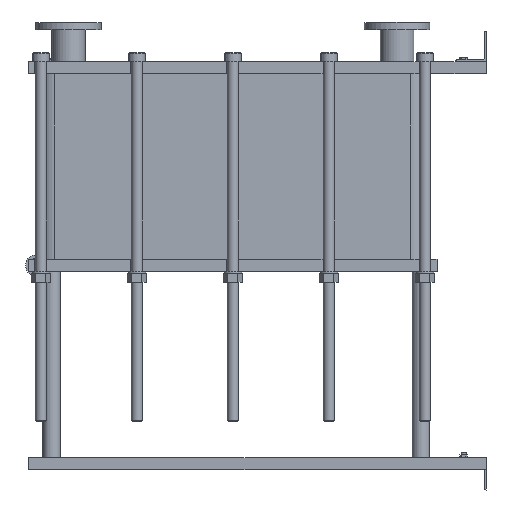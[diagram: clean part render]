
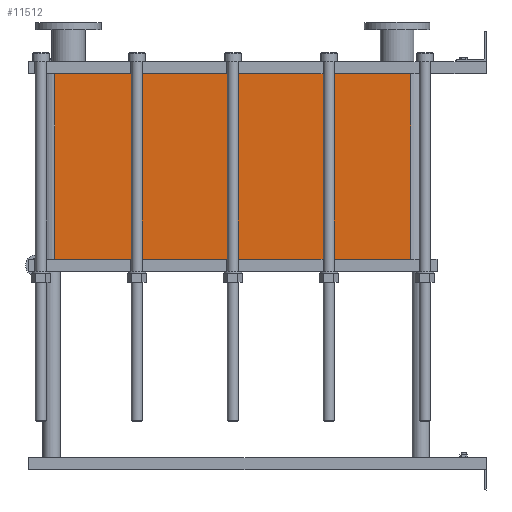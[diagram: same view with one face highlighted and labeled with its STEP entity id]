
A CAD part, left-side view. The second image highlights one B-rep face of the part: STEP entity #11512.
In plain terms, the highlighted planar face has unit normal (-1, 0, 0).
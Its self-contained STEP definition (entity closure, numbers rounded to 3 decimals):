
#1129=LINE('',#23232,#2102);
#1130=LINE('',#23236,#2103);
#1131=LINE('',#23238,#2104);
#1132=LINE('',#23239,#2105);
#2102=VECTOR('',#15887,10.);
#2103=VECTOR('',#15892,10.);
#2104=VECTOR('',#15893,10.);
#2105=VECTOR('',#15894,10.);
#3267=FACE_OUTER_BOUND('',#4093,.T.);
#4093=EDGE_LOOP('',(#10103,#10104,#10105,#10106));
#5642=VERTEX_POINT('',#23229);
#5643=VERTEX_POINT('',#23231);
#5644=VERTEX_POINT('',#23235);
#5645=VERTEX_POINT('',#23237);
#7159=EDGE_CURVE('',#5643,#5642,#1129,.T.);
#7161=EDGE_CURVE('',#5642,#5644,#1130,.T.);
#7162=EDGE_CURVE('',#5645,#5644,#1131,.T.);
#7163=EDGE_CURVE('',#5645,#5643,#1132,.T.);
#10103=ORIENTED_EDGE('',*,*,#7161,.T.);
#10104=ORIENTED_EDGE('',*,*,#7162,.F.);
#10105=ORIENTED_EDGE('',*,*,#7163,.T.);
#10106=ORIENTED_EDGE('',*,*,#7159,.T.);
#10857=PLANE('',#12751);
#11512=ADVANCED_FACE('',(#3267),#10857,.T.);
#12751=AXIS2_PLACEMENT_3D('',#23234,#15890,#15891);
#15887=DIRECTION('',(0.,0.,-1.));
#15890=DIRECTION('center_axis',(-1.,0.,0.));
#15891=DIRECTION('ref_axis',(0.,1.,0.));
#15892=DIRECTION('',(0.,-1.,0.));
#15893=DIRECTION('',(0.,0.,-1.));
#15894=DIRECTION('',(0.,1.,0.));
#23229=CARTESIAN_POINT('',(-200.,1414.,-607.2));
#23231=CARTESIAN_POINT('',(-200.,1414.,0.));
#23232=CARTESIAN_POINT('',(-200.,1414.,0.));
#23234=CARTESIAN_POINT('Origin',(-200.,248.,0.));
#23235=CARTESIAN_POINT('',(-200.,248.,-607.2));
#23236=CARTESIAN_POINT('',(-200.,539.5,-607.2));
#23237=CARTESIAN_POINT('',(-200.,248.,0.));
#23238=CARTESIAN_POINT('',(-200.,248.,0.));
#23239=CARTESIAN_POINT('',(-200.,248.,0.));
